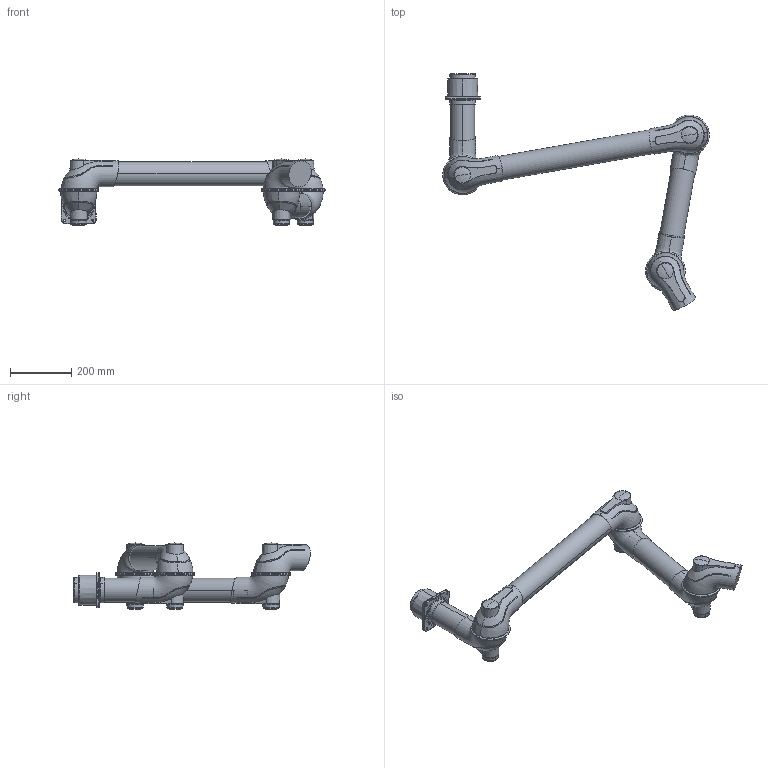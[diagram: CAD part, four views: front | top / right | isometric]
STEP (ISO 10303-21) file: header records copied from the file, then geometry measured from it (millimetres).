
FILE_DESCRIPTION((''),'2;1');
FILE_NAME('102335','2015-10-05T',('Tomas Bellgran'),(''),'PRO/ENGINEER BY PARAMETRIC TECHNOLOGY CORPORATION, 2013410','PRO/ENGINEER BY PARAMETRIC TECHNOLOGY CORPORATION, 2013410','');
FILE_SCHEMA(('AUTOMOTIVE_DESIGN { 1 0 10303 214 1 1 1 1 }'));
Length unit declared in the file: millimetre
Products named in the file (15): 100350; 100455; 102184; 105-5475-01; 102320; 9529063; 102182; 102327; 102187; 102316; 105-5475-02; 105-5481; 101156; 102312; 102335
Assembly tree (22 placements, depth 4):
  102335
    102320
      100350
      100455  x2
      102184
      105-5475-01
    9529063
    102327
      105-5475-01  x2
      102182
    102316
      102187
      105-5475-01
    102312
      105-5475-02  x2
      9529063
      101156
        105-5481
    101156  x2
      105-5481
Bounding box: 868.12 x 770.85 x 215.04 mm (x, y, z)
Volume: 12771618.9 mm3; surface area: 881635 mm2
Topology: 17 solids, 18 shells, 627 faces, 1588 edges, 997 vertices
Faces by surface type: bspline 240, plane 153, cone 141, torus 50, cylinder 22, sphere 21
Entity records: 43779 total; most frequent: CARTESIAN_POINT 27689, ORIENTED_EDGE 1792, DIRECTION 1208, PRESENTATION_STYLE_ASSIGNMENT 1147, STYLED_ITEM 1147, CURVE_STYLE 896, EDGE_CURVE 896, PROPERTY_DEFINITION 674
